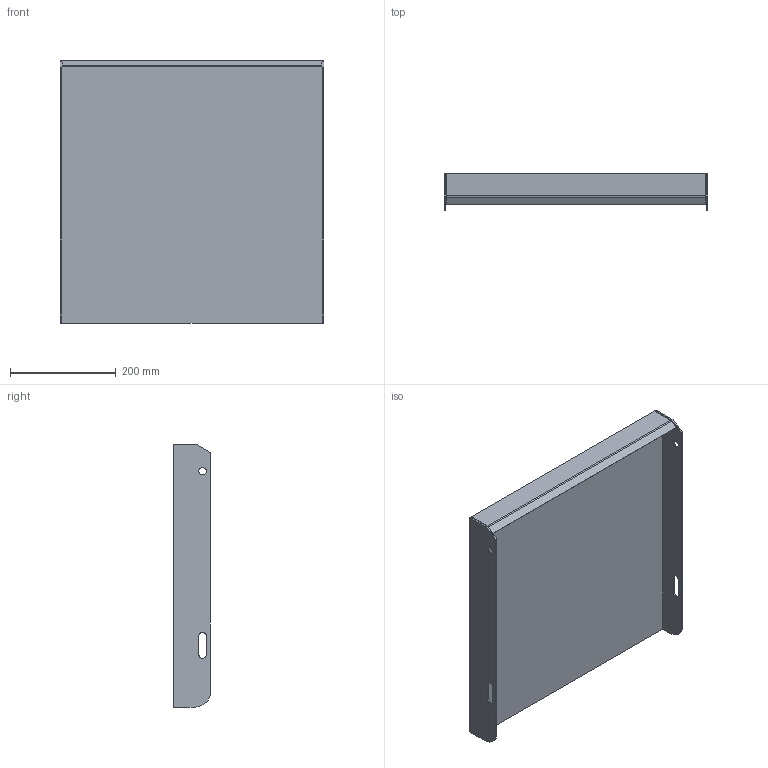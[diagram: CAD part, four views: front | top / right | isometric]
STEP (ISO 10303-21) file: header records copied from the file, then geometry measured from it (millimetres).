
FILE_DESCRIPTION (( 'STEP AP203' ), '1' );
FILE_NAME ('148805051, Plan TH6, 500x500, vfz.STEP', '2020-10-21T13:27:25', ( '' ), ( '' ), 'SwSTEP 2.0', 'SolidWorks 2019', '' );
FILE_SCHEMA (( 'CONFIG_CONTROL_DESIGN' ));
Length unit declared in the file: millimetre
Products named in the file (4): SW0000041378; SW0000041476; SW0000041822; 148805051, Plan TH6, 500x500, vfz
Assembly tree (4 placements, depth 2):
  148805051, Plan TH6, 500x500, vfz
    SW0000041822
    SW0000041378  x2
    SW0000041476
Bounding box: 500 x 70 x 497 mm (x, y, z)
Volume: 5169080.7 mm3; surface area: 732504.7 mm2
Topology: 4 solids, 4 shells, 59 faces, 142 edges, 92 vertices
Faces by surface type: plane 45, cylinder 14
Entity records: 1693 total; most frequent: DIRECTION 221, CARTESIAN_POINT 220, ORIENTED_EDGE 206, EDGE_CURVE 103, LINE 87, VECTOR 87, AXIS2_PLACEMENT_3D 67, VERTEX_POINT 66
